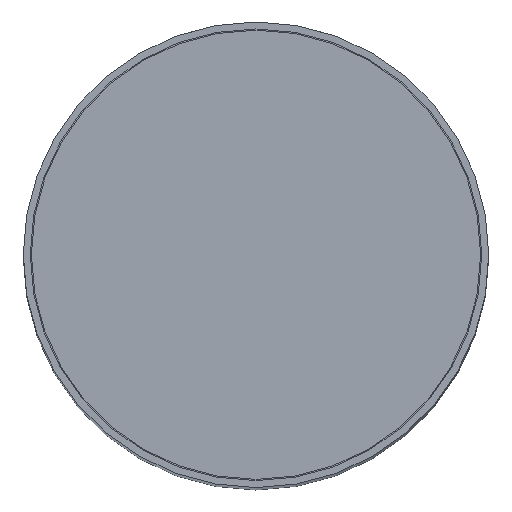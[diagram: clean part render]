
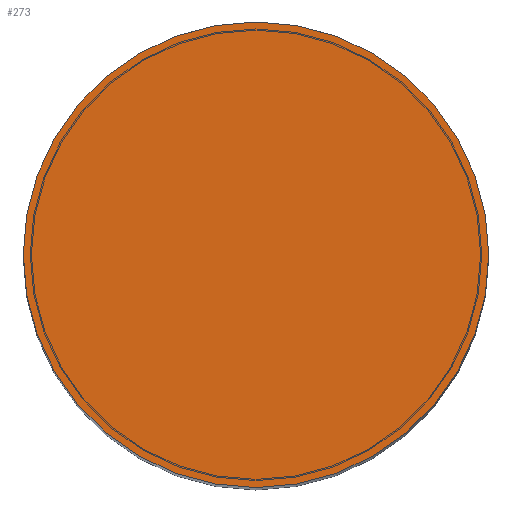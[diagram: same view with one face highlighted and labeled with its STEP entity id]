
A CAD part, top view. The second image highlights one B-rep face of the part: STEP entity #273.
In plain terms, the highlighted planar face has unit normal (0, 0, 1).
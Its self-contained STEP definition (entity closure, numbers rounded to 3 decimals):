
#51=PLANE('',#339);
#70=FACE_OUTER_BOUND('',#96,.T.);
#96=EDGE_LOOP('',(#235));
#135=CIRCLE('',#333,100.);
#154=VERTEX_POINT('',#502);
#180=EDGE_CURVE('',#154,#154,#135,.T.);
#235=ORIENTED_EDGE('',*,*,#180,.F.);
#273=ADVANCED_FACE('',(#70),#51,.F.);
#333=AXIS2_PLACEMENT_3D('',#504,#416,#417);
#339=AXIS2_PLACEMENT_3D('',#513,#429,#430);
#416=DIRECTION('center_axis',(0.,0.,-1.));
#417=DIRECTION('ref_axis',(1.,0.,0.));
#429=DIRECTION('center_axis',(0.,0.,-1.));
#430=DIRECTION('ref_axis',(1.,0.,0.));
#502=CARTESIAN_POINT('',(-100.,0.,6.));
#504=CARTESIAN_POINT('Origin',(0.,0.,6.));
#513=CARTESIAN_POINT('Origin',(0.,0.,6.));
